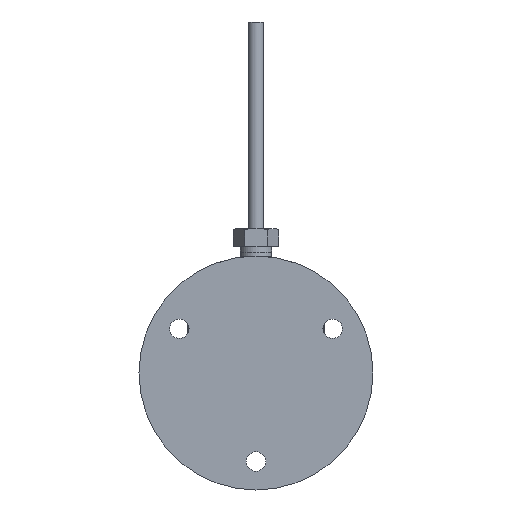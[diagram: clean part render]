
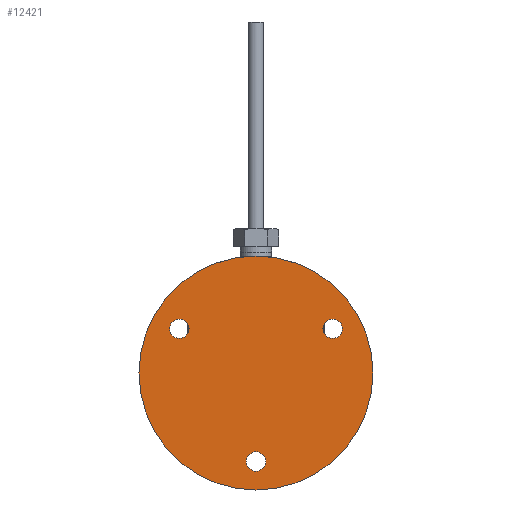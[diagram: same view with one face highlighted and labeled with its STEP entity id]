
A CAD part, front view. The second image highlights one B-rep face of the part: STEP entity #12421.
In plain terms, the highlighted planar face has unit normal (0, -1, 0) as drawn and (-1, 0, 0) by its records, which use the part's own axes.
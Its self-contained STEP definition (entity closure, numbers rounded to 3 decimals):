
#665=PLANE('',#13341);
#2125=CIRCLE('',#13342,2.459);
#2126=CIRCLE('',#13343,2.459);
#2127=CIRCLE('',#13344,2.459);
#2128=CIRCLE('',#13345,29.75);
#2951=ORIENTED_EDGE('',*,*,#6248,.T.);
#2952=ORIENTED_EDGE('',*,*,#6249,.T.);
#2953=ORIENTED_EDGE('',*,*,#6250,.T.);
#2954=ORIENTED_EDGE('',*,*,#6251,.T.);
#6248=EDGE_CURVE('',#7943,#7943,#2125,.T.);
#6249=EDGE_CURVE('',#7944,#7944,#2126,.T.);
#6250=EDGE_CURVE('',#7945,#7945,#2127,.T.);
#6251=EDGE_CURVE('',#7946,#7946,#2128,.T.);
#7943=VERTEX_POINT('',#20962);
#7944=VERTEX_POINT('',#20964);
#7945=VERTEX_POINT('',#20966);
#7946=VERTEX_POINT('',#20968);
#9463=EDGE_LOOP('',(#2951));
#9464=EDGE_LOOP('',(#2952));
#9465=EDGE_LOOP('',(#2953));
#9466=EDGE_LOOP('',(#2954));
#10400=FACE_BOUND('',#9463,.T.);
#10401=FACE_BOUND('',#9464,.T.);
#10402=FACE_BOUND('',#9465,.T.);
#10403=FACE_BOUND('',#9466,.T.);
#12421=ADVANCED_FACE('',(#10400,#10401,#10402,#10403),#665,.F.);
#13341=AXIS2_PLACEMENT_3D('',#20960,#14665,#14666);
#13342=AXIS2_PLACEMENT_3D('',#20961,#14667,#14668);
#13343=AXIS2_PLACEMENT_3D('',#20963,#14669,#14670);
#13344=AXIS2_PLACEMENT_3D('',#20965,#14671,#14672);
#13345=AXIS2_PLACEMENT_3D('',#20967,#14673,#14674);
#14665=DIRECTION('',(1.,0.,0.));
#14666=DIRECTION('',(0.,0.,-1.));
#14667=DIRECTION('',(1.,0.,0.));
#14668=DIRECTION('',(0.,0.,-1.));
#14669=DIRECTION('',(1.,0.,0.));
#14670=DIRECTION('',(0.,0.,-1.));
#14671=DIRECTION('',(1.,0.,0.));
#14672=DIRECTION('',(0.,0.,-1.));
#14673=DIRECTION('',(-1.,0.,0.));
#14674=DIRECTION('',(0.,0.,1.));
#20960=CARTESIAN_POINT('',(0.,0.,0.));
#20961=CARTESIAN_POINT('',(0.,19.486,11.25));
#20962=CARTESIAN_POINT('',(0.,19.486,8.792));
#20963=CARTESIAN_POINT('',(0.,-19.486,11.25));
#20964=CARTESIAN_POINT('',(0.,-19.486,8.792));
#20965=CARTESIAN_POINT('',(0.,0.,-22.5));
#20966=CARTESIAN_POINT('',(0.,0.,-24.959));
#20967=CARTESIAN_POINT('',(0.,0.,0.));
#20968=CARTESIAN_POINT('',(0.,0.,29.75));
